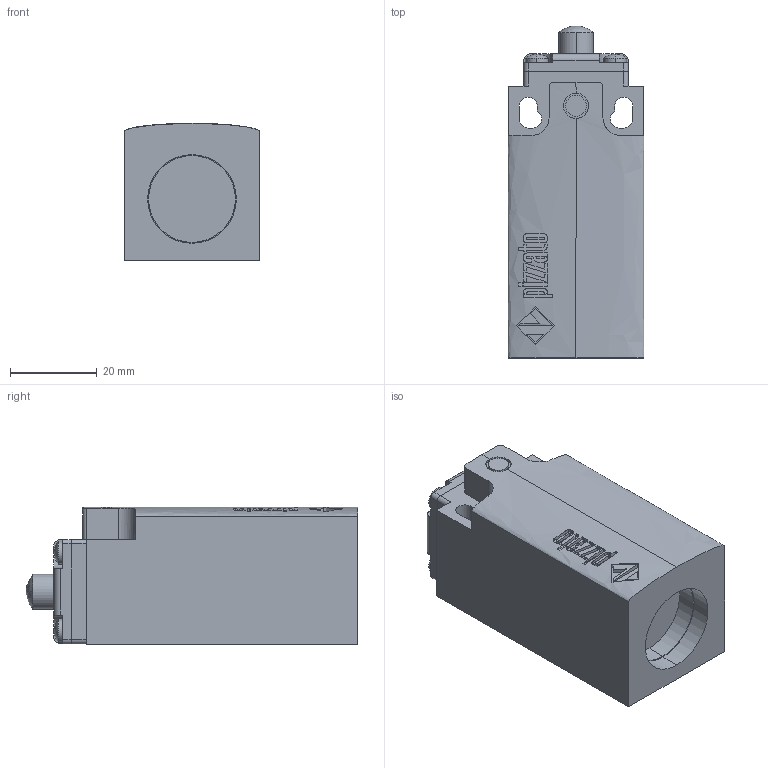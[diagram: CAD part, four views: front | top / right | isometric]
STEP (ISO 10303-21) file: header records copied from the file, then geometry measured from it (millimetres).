
FILE_DESCRIPTION (( 'STEP AP203' ), '1' );
FILE_NAME ('ZF_STEP_FM_x01.STEP', '2024-01-09T16:26:21', ( '' ), ( '' ), 'SwSTEP 2.0', 'SolidWorks 2020', '' );
FILE_SCHEMA (( 'CONFIG_CONTROL_DESIGN' ));
Length unit declared in the file: millimetre
Products named in the file (6): Pizzato_Pulsante_TE01; ZF_STEP_VF_TE01; Pizzato_Custodia_FM_3dweb; Pizzato_Supporto_TE01; ZF_STEP_FM_x01
Assembly tree (5 placements, depth 3):
  ZF_STEP_FM_x01
    Pizzato_Custodia_FM_3dweb
      Pizzato_Custodia_FM_3dweb
    ZF_STEP_VF_TE01
      Pizzato_Supporto_TE01
      Pizzato_Pulsante_TE01
Bounding box: 31.2 x 76.4 x 31.6 mm (x, y, z)
Volume: 59210.5 mm3; surface area: 14388.7 mm2
Topology: 3 solids, 3 shells, 246 faces, 645 edges, 429 vertices
Faces by surface type: plane 145, cylinder 46, bspline 45, sphere 10
Entity records: 8715 total; most frequent: CARTESIAN_POINT 2383, ORIENTED_EDGE 1290, DIRECTION 1011, EDGE_CURVE 645, VERTEX_POINT 429, LINE 393, VECTOR 393, AXIS2_PLACEMENT_3D 309
